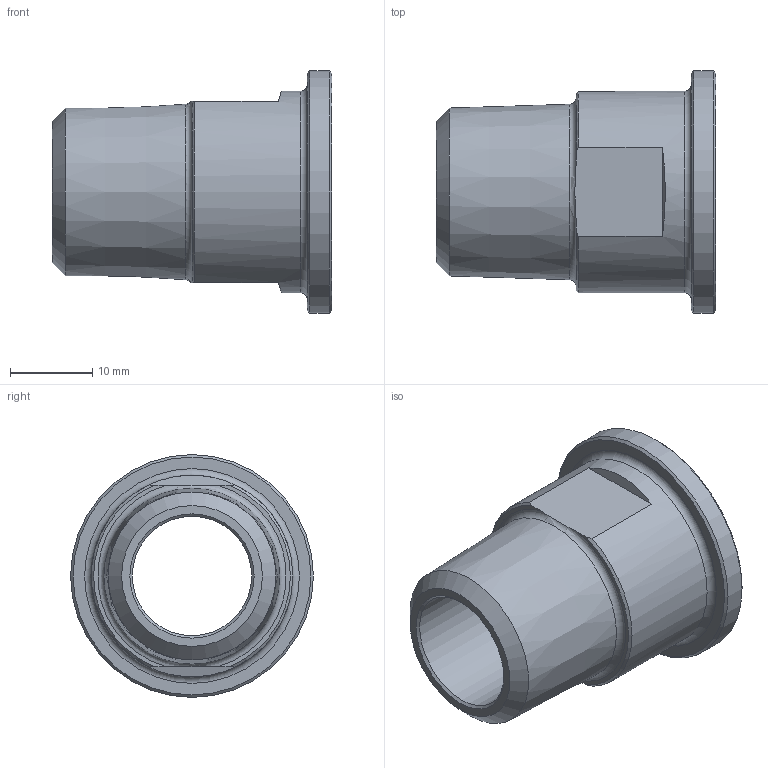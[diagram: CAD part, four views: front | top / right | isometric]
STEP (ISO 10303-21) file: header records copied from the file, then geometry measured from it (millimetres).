
FILE_DESCRIPTION(/* description */ (''),/* implementation_level */ '2;1');
FILE_NAME(/* name */ 'C:\Users\cad\Desktop\Zeichnungen neu von Ralph\3D_Kupplung_R666-UE\3D_R666-UE-DN15-DN25_17113220.stp',/* time_stamp */ '2021-06-17T11:47:33+02:00',/* author */ ('cad'),/* organization */ (''),/* preprocessor_version */ 'ST-DEVELOPER v18.1',/* originating_system */ 'Autodesk Inventor 2022',/* authorisation */ '');
FILE_SCHEMA (('AUTOMOTIVE_DESIGN { 1 0 10303 214 3 1 1 }'));
Length unit declared in the file: millimetre
Products named in the file (1): 3D_R666-UE-DN15-DN25_17113220
Bounding box: 34 x 29.5 x 29.5 mm (x, y, z)
Volume: 8566.8 mm3; surface area: 4841.1 mm2
Topology: 1 solids, 1 shells, 22 faces, 57 edges, 38 vertices
Faces by surface type: plane 9, cone 8, cylinder 3, torus 2
Full cylindrical faces by diameter (mm): 14.5 x1, 24.5 x1, 29.5 x1
Entity records: 746 total; most frequent: CARTESIAN_POINT 145, DIRECTION 127, ORIENTED_EDGE 114, EDGE_CURVE 57, AXIS2_PLACEMENT_3D 54, VERTEX_POINT 38, CIRCLE 29, EDGE_LOOP 25
